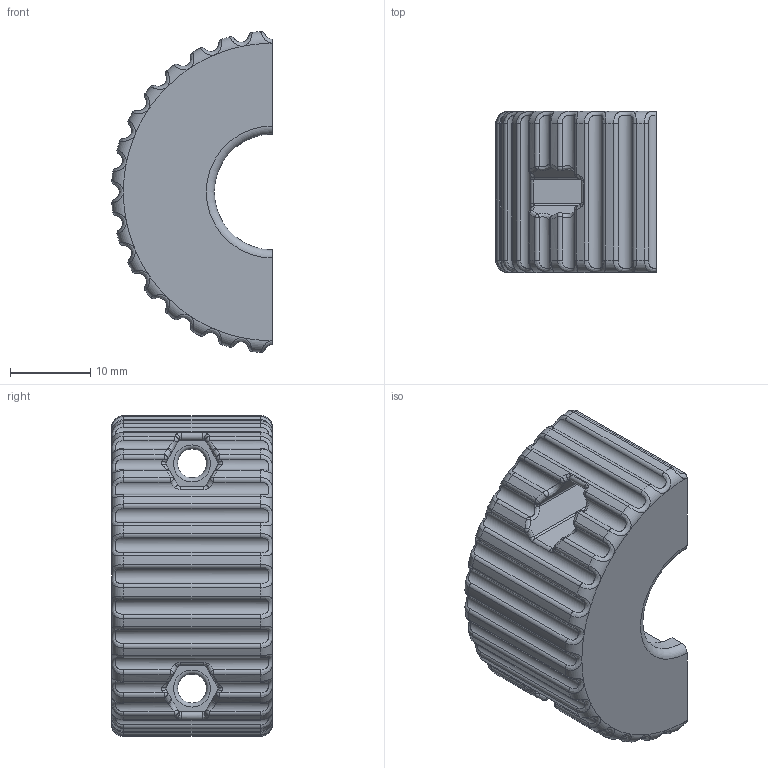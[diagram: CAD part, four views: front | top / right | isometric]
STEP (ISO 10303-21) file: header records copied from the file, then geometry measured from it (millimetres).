
FILE_DESCRIPTION(/* description */ (''),/* implementation_level */ '2;1');
FILE_NAME(/* name */ 'TRAYLOADER.103.stp',/* time_stamp */ '2025-05-12T17:11:55+02:00',/* author */ (''),/* organization */ (''),/* preprocessor_version */ 'ST-DEVELOPER v19.4',/* originating_system */ 'SIEMENS PLM Software NX2306.5001',/* authorisation */ '');
FILE_SCHEMA (('AP203_CONFIGURATION_CONTROLLED_3D_DESIGN_OF_MECHANICAL_PARTS_AND_ASSEMBLIES_MIM_LF { 1 0 10303 403 2 1 2}'));
Length unit declared in the file: millimetre
Products named in the file (1): TRAYLOADER.103_objects
Bounding box: 19.95 x 20 x 39.9 mm (x, y, z)
Volume: 8595.2 mm3; surface area: 4191.2 mm2
Topology: 1 solids, 1 shells, 275 faces, 646 edges, 357 vertices
Faces by surface type: cylinder 107, bspline 78, torus 42, plane 28, sphere 20
Full cylindrical faces by diameter (mm): 3.6 x2, 5 x4
Entity records: 13355 total; most frequent: CARTESIAN_POINT 7581, ORIENTED_EDGE 1214, DIRECTION 1171, EDGE_CURVE 607, AXIS2_PLACEMENT_3D 508, VERTEX_POINT 352, EDGE_LOOP 297, ADVANCED_FACE 275
